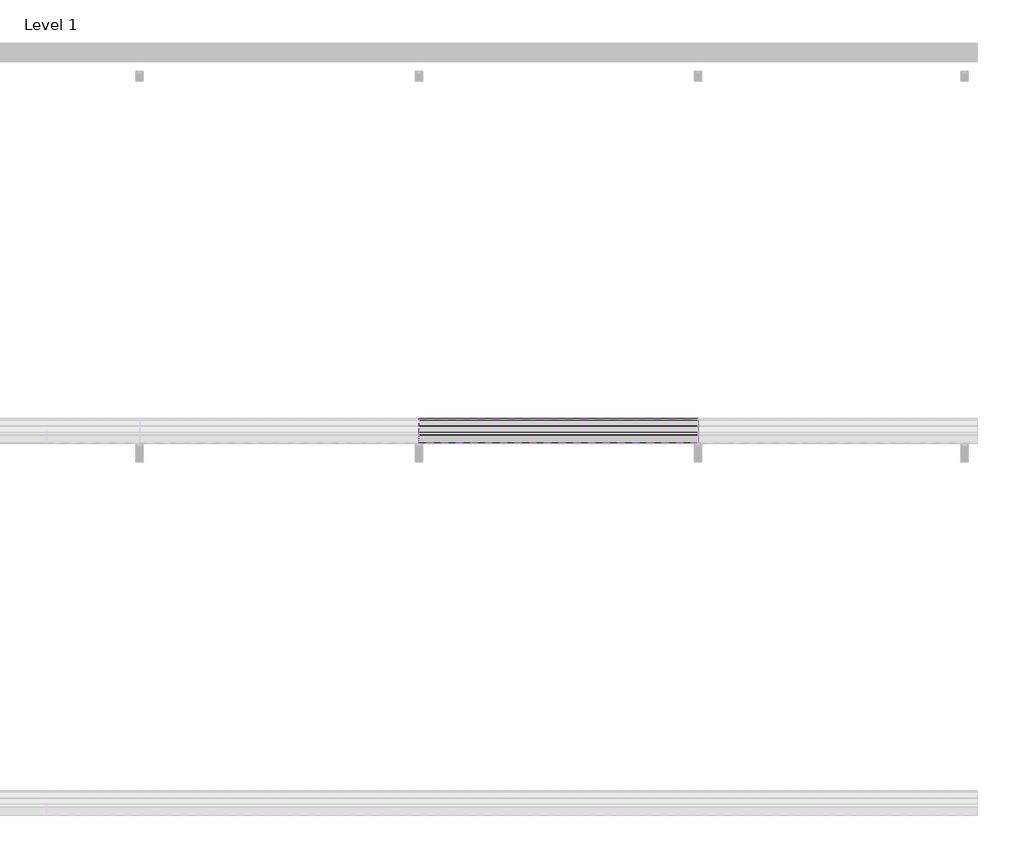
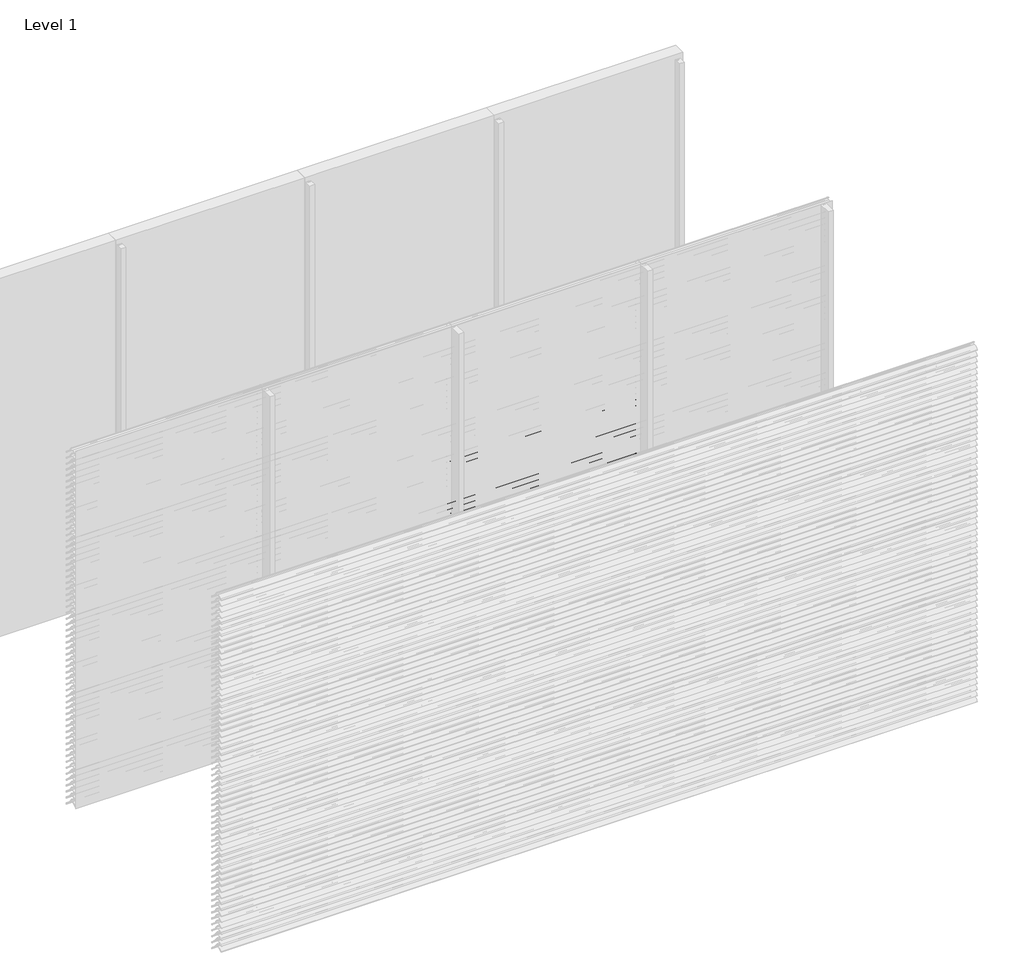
# One storey, part 66 of 173: 17 proxies.
"""IFC4 building model written with IfcOpenShell, lengths in millimetres."""

from ifc_helpers import new_model, si_unit, point, frame, frame_2d, origin, place, context, project, spatial, polyline, circle_curve, trimmed, segment, composite_curve, outline, extrude, element, save

model = new_model("IFC4")

# Units and contexts
model_context = context("Model", 3, world=origin())
ifc_project = project(units=[si_unit("LENGTHUNIT", "METRE", prefix="MILLI")], contexts=[model_context])

# Site, building, storey
site = spatial("IfcSite", under=ifc_project)
building = spatial("IfcBuilding", under=site)
storey = spatial("IfcBuildingStorey", under=building, Name="Level 1", Elevation=0.0)

# Proxies
placement = place(None, origin())
element("IfcBuildingElementProxy", 1, Name="Wall Sweeps", at=placement, inside=storey, context=model_context, shape_type="SweptSolid", body=[
    extrude(outline(composite_curve([segment(polyline([(-35998.0, 1809.1474905), (-35998.0, 1811.6227417)]), True, "CONTINUOUS"), segment(trimmed(circle_curve(frame_2d((-35951.2682172, 1766.2200208)), 65.1557103), [point((-35998.0, 1811.6227417))], [point((-35954.4014323, 1831.3003524))], False, "CARTESIAN"), True, "CONTINUOUS"), segment(polyline([(-35954.4014323, 1831.3003524), (-35934.8315836, 1831.3003524)]), True, "CONTINUOUS"), segment(trimmed(circle_curve(frame_2d((-35732.7329489, 1978.5533172)), 250.0545817), [point((-35934.8315836, 1831.3003524))], [point((-35941.4452143, 1840.8344583))], False, "CARTESIAN"), True, "CONTINUOUS"), segment(trimmed(circle_curve(frame_2d((-35953.2981792, 1835.1737835)), 13.1352966), [point((-35941.4452143, 1840.8344583))], [point((-35953.8171475, 1848.298824))], True, "CARTESIAN"), True, "CONTINUOUS"), segment(polyline([(-35953.8171475, 1848.298824), (-35953.8171475, 1850.0)]), True, "CONTINUOUS"), segment(trimmed(circle_curve(frame_2d((-35953.2981792, 1835.1737835)), 14.8352966), [point((-35953.8171475, 1850.0))], [point((-35939.9637661, 1841.6760487))], False, "CARTESIAN"), True, "CONTINUOUS"), segment(trimmed(circle_curve(frame_2d((-35732.7329489, 1978.5533172)), 248.3545817), [point((-35939.9637661, 1841.6760487))], [point((-35873.8787895, 1774.2059416))], True, "CARTESIAN"), True, "CONTINUOUS"), segment(trimmed(circle_curve(frame_2d((-35883.8147537, 1761.6649442)), 16.0), [point((-35873.8787895, 1774.2059416))], [point((-35867.8648347, 1760.4))], False, "CARTESIAN"), True, "CONTINUOUS"), segment(polyline([(-35867.8648347, 1760.4), (-35869.6712069, 1760.4)]), True, "CONTINUOUS"), segment(trimmed(circle_curve(frame_2d((-35883.8147537, 1761.6649442)), 14.2), [point((-35869.6712069, 1760.4))], [point((-35874.9518628, 1772.7594998))], True, "CARTESIAN"), True, "CONTINUOUS"), segment(trimmed(circle_curve(frame_2d((-35732.7329489, 1978.5533172)), 250.1545817), [point((-35874.9518628, 1772.7594998))], [point((-35933.7064024, 1829.6003524))], False, "CARTESIAN"), True, "CONTINUOUS"), segment(polyline([(-35933.7064024, 1829.6003524), (-35954.3602632, 1829.6003524)]), True, "CONTINUOUS"), segment(trimmed(circle_curve(frame_2d((-35951.2682172, 1766.2200208)), 63.4557103), [point((-35954.3602632, 1829.6003524))], [point((-35998.0, 1809.1474905))], True, "CARTESIAN"), True, "CONTINUOUS")], self_intersect=False)), frame((3000.0, 0.0, 0.0), z_axis=(1.0, 0.0, 0.0), x_axis=(0.0, 1.0, 0.0)), (0.0, 0.0, 1.0), 1500.0),
])
element("IfcBuildingElementProxy", 2, Name="Wall Sweeps", at=placement, inside=storey, context=model_context, shape_type="SweptSolid", body=[
    extrude(outline(composite_curve([segment(polyline([(-35998.0, 1759.1474905), (-35998.0, 1761.6227417)]), True, "CONTINUOUS"), segment(trimmed(circle_curve(frame_2d((-35951.2682172, 1716.2200208)), 65.1557103), [point((-35998.0, 1761.6227417))], [point((-35954.4014323, 1781.3003524))], False, "CARTESIAN"), True, "CONTINUOUS"), segment(polyline([(-35954.4014323, 1781.3003524), (-35934.8315836, 1781.3003524)]), True, "CONTINUOUS"), segment(trimmed(circle_curve(frame_2d((-35732.7329489, 1928.5533172)), 250.0545817), [point((-35934.8315836, 1781.3003524))], [point((-35941.4452143, 1790.8344583))], False, "CARTESIAN"), True, "CONTINUOUS"), segment(trimmed(circle_curve(frame_2d((-35953.2981792, 1785.1737835)), 13.1352966), [point((-35941.4452143, 1790.8344583))], [point((-35953.8171475, 1798.298824))], True, "CARTESIAN"), True, "CONTINUOUS"), segment(polyline([(-35953.8171475, 1798.298824), (-35953.8171475, 1800.0)]), True, "CONTINUOUS"), segment(trimmed(circle_curve(frame_2d((-35953.2981792, 1785.1737835)), 14.8352966), [point((-35953.8171475, 1800.0))], [point((-35939.9637661, 1791.6760487))], False, "CARTESIAN"), True, "CONTINUOUS"), segment(trimmed(circle_curve(frame_2d((-35732.7329489, 1928.5533172)), 248.3545817), [point((-35939.9637661, 1791.6760487))], [point((-35873.8787895, 1724.2059416))], True, "CARTESIAN"), True, "CONTINUOUS"), segment(trimmed(circle_curve(frame_2d((-35883.8147537, 1711.6649442)), 16.0), [point((-35873.8787895, 1724.2059416))], [point((-35867.8648347, 1710.4))], False, "CARTESIAN"), True, "CONTINUOUS"), segment(polyline([(-35867.8648347, 1710.4), (-35869.6712069, 1710.4)]), True, "CONTINUOUS"), segment(trimmed(circle_curve(frame_2d((-35883.8147537, 1711.6649442)), 14.2), [point((-35869.6712069, 1710.4))], [point((-35874.9518628, 1722.7594998))], True, "CARTESIAN"), True, "CONTINUOUS"), segment(trimmed(circle_curve(frame_2d((-35732.7329489, 1928.5533172)), 250.1545817), [point((-35874.9518628, 1722.7594998))], [point((-35933.7064024, 1779.6003524))], False, "CARTESIAN"), True, "CONTINUOUS"), segment(polyline([(-35933.7064024, 1779.6003524), (-35954.3602632, 1779.6003524)]), True, "CONTINUOUS"), segment(trimmed(circle_curve(frame_2d((-35951.2682172, 1716.2200208)), 63.4557103), [point((-35954.3602632, 1779.6003524))], [point((-35998.0, 1759.1474905))], True, "CARTESIAN"), True, "CONTINUOUS")], self_intersect=False)), frame((3000.0, 0.0, 0.0), z_axis=(1.0, 0.0, 0.0), x_axis=(0.0, 1.0, 0.0)), (0.0, 0.0, 1.0), 1500.0),
])
element("IfcBuildingElementProxy", 3, Name="Wall Sweeps", at=placement, inside=storey, context=model_context, shape_type="SweptSolid", body=[
    extrude(outline(composite_curve([segment(polyline([(-35998.0, 1709.1474905), (-35998.0, 1711.6227417)]), True, "CONTINUOUS"), segment(trimmed(circle_curve(frame_2d((-35951.2682172, 1666.2200208)), 65.1557103), [point((-35998.0, 1711.6227417))], [point((-35954.4014323, 1731.3003524))], False, "CARTESIAN"), True, "CONTINUOUS"), segment(polyline([(-35954.4014323, 1731.3003524), (-35934.8315836, 1731.3003524)]), True, "CONTINUOUS"), segment(trimmed(circle_curve(frame_2d((-35732.7329489, 1878.5533172)), 250.0545817), [point((-35934.8315836, 1731.3003524))], [point((-35941.4452143, 1740.8344583))], False, "CARTESIAN"), True, "CONTINUOUS"), segment(trimmed(circle_curve(frame_2d((-35953.2981792, 1735.1737835)), 13.1352966), [point((-35941.4452143, 1740.8344583))], [point((-35953.8171475, 1748.298824))], True, "CARTESIAN"), True, "CONTINUOUS"), segment(polyline([(-35953.8171475, 1748.298824), (-35953.8171475, 1750.0)]), True, "CONTINUOUS"), segment(trimmed(circle_curve(frame_2d((-35953.2981792, 1735.1737835)), 14.8352966), [point((-35953.8171475, 1750.0))], [point((-35939.9637661, 1741.6760487))], False, "CARTESIAN"), True, "CONTINUOUS"), segment(trimmed(circle_curve(frame_2d((-35732.7329489, 1878.5533172)), 248.3545817), [point((-35939.9637661, 1741.6760487))], [point((-35873.8787895, 1674.2059416))], True, "CARTESIAN"), True, "CONTINUOUS"), segment(trimmed(circle_curve(frame_2d((-35883.8147537, 1661.6649442)), 16.0), [point((-35873.8787895, 1674.2059416))], [point((-35867.8648347, 1660.4))], False, "CARTESIAN"), True, "CONTINUOUS"), segment(polyline([(-35867.8648347, 1660.4), (-35869.6712069, 1660.4)]), True, "CONTINUOUS"), segment(trimmed(circle_curve(frame_2d((-35883.8147537, 1661.6649442)), 14.2), [point((-35869.6712069, 1660.4))], [point((-35874.9518628, 1672.7594998))], True, "CARTESIAN"), True, "CONTINUOUS"), segment(trimmed(circle_curve(frame_2d((-35732.7329489, 1878.5533172)), 250.1545817), [point((-35874.9518628, 1672.7594998))], [point((-35933.7064024, 1729.6003524))], False, "CARTESIAN"), True, "CONTINUOUS"), segment(polyline([(-35933.7064024, 1729.6003524), (-35954.3602632, 1729.6003524)]), True, "CONTINUOUS"), segment(trimmed(circle_curve(frame_2d((-35951.2682172, 1666.2200208)), 63.4557103), [point((-35954.3602632, 1729.6003524))], [point((-35998.0, 1709.1474905))], True, "CARTESIAN"), True, "CONTINUOUS")], self_intersect=False)), frame((3000.0, 0.0, 0.0), z_axis=(1.0, 0.0, 0.0), x_axis=(0.0, 1.0, 0.0)), (0.0, 0.0, 1.0), 1500.0),
])
element("IfcBuildingElementProxy", 4, Name="Wall Sweeps", at=placement, inside=storey, context=model_context, shape_type="SweptSolid", body=[
    extrude(outline(composite_curve([segment(polyline([(-35998.0, 1659.1474905), (-35998.0, 1661.6227417)]), True, "CONTINUOUS"), segment(trimmed(circle_curve(frame_2d((-35951.2682172, 1616.2200208)), 65.1557103), [point((-35998.0, 1661.6227417))], [point((-35954.4014323, 1681.3003524))], False, "CARTESIAN"), True, "CONTINUOUS"), segment(polyline([(-35954.4014323, 1681.3003524), (-35934.8315836, 1681.3003524)]), True, "CONTINUOUS"), segment(trimmed(circle_curve(frame_2d((-35732.7329489, 1828.5533172)), 250.0545817), [point((-35934.8315836, 1681.3003524))], [point((-35941.4452143, 1690.8344583))], False, "CARTESIAN"), True, "CONTINUOUS"), segment(trimmed(circle_curve(frame_2d((-35953.2981792, 1685.1737835)), 13.1352966), [point((-35941.4452143, 1690.8344583))], [point((-35953.8171475, 1698.298824))], True, "CARTESIAN"), True, "CONTINUOUS"), segment(polyline([(-35953.8171475, 1698.298824), (-35953.8171475, 1700.0)]), True, "CONTINUOUS"), segment(trimmed(circle_curve(frame_2d((-35953.2981792, 1685.1737835)), 14.8352966), [point((-35953.8171475, 1700.0))], [point((-35939.9637661, 1691.6760487))], False, "CARTESIAN"), True, "CONTINUOUS"), segment(trimmed(circle_curve(frame_2d((-35732.7329489, 1828.5533172)), 248.3545817), [point((-35939.9637661, 1691.6760487))], [point((-35873.8787895, 1624.2059416))], True, "CARTESIAN"), True, "CONTINUOUS"), segment(trimmed(circle_curve(frame_2d((-35883.8147537, 1611.6649442)), 16.0), [point((-35873.8787895, 1624.2059416))], [point((-35867.8648347, 1610.4))], False, "CARTESIAN"), True, "CONTINUOUS"), segment(polyline([(-35867.8648347, 1610.4), (-35869.6712069, 1610.4)]), True, "CONTINUOUS"), segment(trimmed(circle_curve(frame_2d((-35883.8147537, 1611.6649442)), 14.2), [point((-35869.6712069, 1610.4))], [point((-35874.9518628, 1622.7594998))], True, "CARTESIAN"), True, "CONTINUOUS"), segment(trimmed(circle_curve(frame_2d((-35732.7329489, 1828.5533172)), 250.1545817), [point((-35874.9518628, 1622.7594998))], [point((-35933.7064024, 1679.6003524))], False, "CARTESIAN"), True, "CONTINUOUS"), segment(polyline([(-35933.7064024, 1679.6003524), (-35954.3602632, 1679.6003524)]), True, "CONTINUOUS"), segment(trimmed(circle_curve(frame_2d((-35951.2682172, 1616.2200208)), 63.4557103), [point((-35954.3602632, 1679.6003524))], [point((-35998.0, 1659.1474905))], True, "CARTESIAN"), True, "CONTINUOUS")], self_intersect=False)), frame((3000.0, 0.0, 0.0), z_axis=(1.0, 0.0, 0.0), x_axis=(0.0, 1.0, 0.0)), (0.0, 0.0, 1.0), 1500.0),
])
element("IfcBuildingElementProxy", 5, Name="Wall Sweeps", at=placement, inside=storey, context=model_context, shape_type="SweptSolid", body=[
    extrude(outline(composite_curve([segment(polyline([(-35998.0, 1609.1474905), (-35998.0, 1611.6227417)]), True, "CONTINUOUS"), segment(trimmed(circle_curve(frame_2d((-35951.2682172, 1566.2200208)), 65.1557103), [point((-35998.0, 1611.6227417))], [point((-35954.4014323, 1631.3003524))], False, "CARTESIAN"), True, "CONTINUOUS"), segment(polyline([(-35954.4014323, 1631.3003524), (-35934.8315836, 1631.3003524)]), True, "CONTINUOUS"), segment(trimmed(circle_curve(frame_2d((-35732.7329489, 1778.5533172)), 250.0545817), [point((-35934.8315836, 1631.3003524))], [point((-35941.4452143, 1640.8344583))], False, "CARTESIAN"), True, "CONTINUOUS"), segment(trimmed(circle_curve(frame_2d((-35953.2981792, 1635.1737835)), 13.1352966), [point((-35941.4452143, 1640.8344583))], [point((-35953.8171475, 1648.298824))], True, "CARTESIAN"), True, "CONTINUOUS"), segment(polyline([(-35953.8171475, 1648.298824), (-35953.8171475, 1650.0)]), True, "CONTINUOUS"), segment(trimmed(circle_curve(frame_2d((-35953.2981792, 1635.1737835)), 14.8352966), [point((-35953.8171475, 1650.0))], [point((-35939.9637661, 1641.6760487))], False, "CARTESIAN"), True, "CONTINUOUS"), segment(trimmed(circle_curve(frame_2d((-35732.7329489, 1778.5533172)), 248.3545817), [point((-35939.9637661, 1641.6760487))], [point((-35873.8787895, 1574.2059416))], True, "CARTESIAN"), True, "CONTINUOUS"), segment(trimmed(circle_curve(frame_2d((-35883.8147537, 1561.6649442)), 16.0), [point((-35873.8787895, 1574.2059416))], [point((-35867.8648347, 1560.4))], False, "CARTESIAN"), True, "CONTINUOUS"), segment(polyline([(-35867.8648347, 1560.4), (-35869.6712069, 1560.4)]), True, "CONTINUOUS"), segment(trimmed(circle_curve(frame_2d((-35883.8147537, 1561.6649442)), 14.2), [point((-35869.6712069, 1560.4))], [point((-35874.9518628, 1572.7594998))], True, "CARTESIAN"), True, "CONTINUOUS"), segment(trimmed(circle_curve(frame_2d((-35732.7329489, 1778.5533172)), 250.1545817), [point((-35874.9518628, 1572.7594998))], [point((-35933.7064024, 1629.6003524))], False, "CARTESIAN"), True, "CONTINUOUS"), segment(polyline([(-35933.7064024, 1629.6003524), (-35954.3602632, 1629.6003524)]), True, "CONTINUOUS"), segment(trimmed(circle_curve(frame_2d((-35951.2682172, 1566.2200208)), 63.4557103), [point((-35954.3602632, 1629.6003524))], [point((-35998.0, 1609.1474905))], True, "CARTESIAN"), True, "CONTINUOUS")], self_intersect=False)), frame((3000.0, 0.0, 0.0), z_axis=(1.0, 0.0, 0.0), x_axis=(0.0, 1.0, 0.0)), (0.0, 0.0, 1.0), 1500.0),
])
element("IfcBuildingElementProxy", 6, Name="Wall Sweeps", at=placement, inside=storey, context=model_context, shape_type="SweptSolid", body=[
    extrude(outline(composite_curve([segment(polyline([(-35998.0, 1559.1474905), (-35998.0, 1561.6227417)]), True, "CONTINUOUS"), segment(trimmed(circle_curve(frame_2d((-35951.2682172, 1516.2200208)), 65.1557103), [point((-35998.0, 1561.6227417))], [point((-35954.4014323, 1581.3003524))], False, "CARTESIAN"), True, "CONTINUOUS"), segment(polyline([(-35954.4014323, 1581.3003524), (-35934.8315836, 1581.3003524)]), True, "CONTINUOUS"), segment(trimmed(circle_curve(frame_2d((-35732.7329489, 1728.5533172)), 250.0545817), [point((-35934.8315836, 1581.3003524))], [point((-35941.4452143, 1590.8344583))], False, "CARTESIAN"), True, "CONTINUOUS"), segment(trimmed(circle_curve(frame_2d((-35953.2981792, 1585.1737835)), 13.1352966), [point((-35941.4452143, 1590.8344583))], [point((-35953.8171475, 1598.298824))], True, "CARTESIAN"), True, "CONTINUOUS"), segment(polyline([(-35953.8171475, 1598.298824), (-35953.8171475, 1600.0)]), True, "CONTINUOUS"), segment(trimmed(circle_curve(frame_2d((-35953.2981792, 1585.1737835)), 14.8352966), [point((-35953.8171475, 1600.0))], [point((-35939.9637661, 1591.6760487))], False, "CARTESIAN"), True, "CONTINUOUS"), segment(trimmed(circle_curve(frame_2d((-35732.7329489, 1728.5533172)), 248.3545817), [point((-35939.9637661, 1591.6760487))], [point((-35873.8787895, 1524.2059416))], True, "CARTESIAN"), True, "CONTINUOUS"), segment(trimmed(circle_curve(frame_2d((-35883.8147537, 1511.6649442)), 16.0), [point((-35873.8787895, 1524.2059416))], [point((-35867.8648347, 1510.4))], False, "CARTESIAN"), True, "CONTINUOUS"), segment(polyline([(-35867.8648347, 1510.4), (-35869.6712069, 1510.4)]), True, "CONTINUOUS"), segment(trimmed(circle_curve(frame_2d((-35883.8147537, 1511.6649442)), 14.2), [point((-35869.6712069, 1510.4))], [point((-35874.9518628, 1522.7594998))], True, "CARTESIAN"), True, "CONTINUOUS"), segment(trimmed(circle_curve(frame_2d((-35732.7329489, 1728.5533172)), 250.1545817), [point((-35874.9518628, 1522.7594998))], [point((-35933.7064024, 1579.6003524))], False, "CARTESIAN"), True, "CONTINUOUS"), segment(polyline([(-35933.7064024, 1579.6003524), (-35954.3602632, 1579.6003524)]), True, "CONTINUOUS"), segment(trimmed(circle_curve(frame_2d((-35951.2682172, 1516.2200208)), 63.4557103), [point((-35954.3602632, 1579.6003524))], [point((-35998.0, 1559.1474905))], True, "CARTESIAN"), True, "CONTINUOUS")], self_intersect=False)), frame((3000.0, 0.0, 0.0), z_axis=(1.0, 0.0, 0.0), x_axis=(0.0, 1.0, 0.0)), (0.0, 0.0, 1.0), 1500.0),
])
element("IfcBuildingElementProxy", 7, Name="Wall Sweeps", at=placement, inside=storey, context=model_context, shape_type="SweptSolid", body=[
    extrude(outline(composite_curve([segment(polyline([(-35998.0, 1509.1474905), (-35998.0, 1511.6227417)]), True, "CONTINUOUS"), segment(trimmed(circle_curve(frame_2d((-35951.2682172, 1466.2200208)), 65.1557103), [point((-35998.0, 1511.6227417))], [point((-35954.4014323, 1531.3003524))], False, "CARTESIAN"), True, "CONTINUOUS"), segment(polyline([(-35954.4014323, 1531.3003524), (-35934.8315836, 1531.3003524)]), True, "CONTINUOUS"), segment(trimmed(circle_curve(frame_2d((-35732.7329489, 1678.5533172)), 250.0545817), [point((-35934.8315836, 1531.3003524))], [point((-35941.4452143, 1540.8344583))], False, "CARTESIAN"), True, "CONTINUOUS"), segment(trimmed(circle_curve(frame_2d((-35953.2981792, 1535.1737835)), 13.1352966), [point((-35941.4452143, 1540.8344583))], [point((-35953.8171475, 1548.298824))], True, "CARTESIAN"), True, "CONTINUOUS"), segment(polyline([(-35953.8171475, 1548.298824), (-35953.8171475, 1550.0)]), True, "CONTINUOUS"), segment(trimmed(circle_curve(frame_2d((-35953.2981792, 1535.1737835)), 14.8352966), [point((-35953.8171475, 1550.0))], [point((-35939.9637661, 1541.6760487))], False, "CARTESIAN"), True, "CONTINUOUS"), segment(trimmed(circle_curve(frame_2d((-35732.7329489, 1678.5533172)), 248.3545817), [point((-35939.9637661, 1541.6760487))], [point((-35873.8787895, 1474.2059416))], True, "CARTESIAN"), True, "CONTINUOUS"), segment(trimmed(circle_curve(frame_2d((-35883.8147537, 1461.6649442)), 16.0), [point((-35873.8787895, 1474.2059416))], [point((-35867.8648347, 1460.4))], False, "CARTESIAN"), True, "CONTINUOUS"), segment(polyline([(-35867.8648347, 1460.4), (-35869.6712069, 1460.4)]), True, "CONTINUOUS"), segment(trimmed(circle_curve(frame_2d((-35883.8147537, 1461.6649442)), 14.2), [point((-35869.6712069, 1460.4))], [point((-35874.9518628, 1472.7594998))], True, "CARTESIAN"), True, "CONTINUOUS"), segment(trimmed(circle_curve(frame_2d((-35732.7329489, 1678.5533172)), 250.1545817), [point((-35874.9518628, 1472.7594998))], [point((-35933.7064024, 1529.6003524))], False, "CARTESIAN"), True, "CONTINUOUS"), segment(polyline([(-35933.7064024, 1529.6003524), (-35954.3602632, 1529.6003524)]), True, "CONTINUOUS"), segment(trimmed(circle_curve(frame_2d((-35951.2682172, 1466.2200208)), 63.4557103), [point((-35954.3602632, 1529.6003524))], [point((-35998.0, 1509.1474905))], True, "CARTESIAN"), True, "CONTINUOUS")], self_intersect=False)), frame((3000.0, 0.0, 0.0), z_axis=(1.0, 0.0, 0.0), x_axis=(0.0, 1.0, 0.0)), (0.0, 0.0, 1.0), 1500.0),
])
element("IfcBuildingElementProxy", 8, Name="Wall Sweeps", at=placement, inside=storey, context=model_context, shape_type="SweptSolid", body=[
    extrude(outline(composite_curve([segment(polyline([(-35998.0, 1459.1474905), (-35998.0, 1461.6227417)]), True, "CONTINUOUS"), segment(trimmed(circle_curve(frame_2d((-35951.2682172, 1416.2200208)), 65.1557103), [point((-35998.0, 1461.6227417))], [point((-35954.4014323, 1481.3003524))], False, "CARTESIAN"), True, "CONTINUOUS"), segment(polyline([(-35954.4014323, 1481.3003524), (-35934.8315836, 1481.3003524)]), True, "CONTINUOUS"), segment(trimmed(circle_curve(frame_2d((-35732.7329489, 1628.5533172)), 250.0545817), [point((-35934.8315836, 1481.3003524))], [point((-35941.4452143, 1490.8344583))], False, "CARTESIAN"), True, "CONTINUOUS"), segment(trimmed(circle_curve(frame_2d((-35953.2981792, 1485.1737835)), 13.1352966), [point((-35941.4452143, 1490.8344583))], [point((-35953.8171475, 1498.298824))], True, "CARTESIAN"), True, "CONTINUOUS"), segment(polyline([(-35953.8171475, 1498.298824), (-35953.8171475, 1500.0)]), True, "CONTINUOUS"), segment(trimmed(circle_curve(frame_2d((-35953.2981792, 1485.1737835)), 14.8352966), [point((-35953.8171475, 1500.0))], [point((-35939.9637661, 1491.6760487))], False, "CARTESIAN"), True, "CONTINUOUS"), segment(trimmed(circle_curve(frame_2d((-35732.7329489, 1628.5533172)), 248.3545817), [point((-35939.9637661, 1491.6760487))], [point((-35873.8787895, 1424.2059416))], True, "CARTESIAN"), True, "CONTINUOUS"), segment(trimmed(circle_curve(frame_2d((-35883.8147537, 1411.6649442)), 16.0), [point((-35873.8787895, 1424.2059416))], [point((-35867.8648347, 1410.4))], False, "CARTESIAN"), True, "CONTINUOUS"), segment(polyline([(-35867.8648347, 1410.4), (-35869.6712069, 1410.4)]), True, "CONTINUOUS"), segment(trimmed(circle_curve(frame_2d((-35883.8147537, 1411.6649442)), 14.2), [point((-35869.6712069, 1410.4))], [point((-35874.9518628, 1422.7594998))], True, "CARTESIAN"), True, "CONTINUOUS"), segment(trimmed(circle_curve(frame_2d((-35732.7329489, 1628.5533172)), 250.1545817), [point((-35874.9518628, 1422.7594998))], [point((-35933.7064024, 1479.6003524))], False, "CARTESIAN"), True, "CONTINUOUS"), segment(polyline([(-35933.7064024, 1479.6003524), (-35954.3602632, 1479.6003524)]), True, "CONTINUOUS"), segment(trimmed(circle_curve(frame_2d((-35951.2682172, 1416.2200208)), 63.4557103), [point((-35954.3602632, 1479.6003524))], [point((-35998.0, 1459.1474905))], True, "CARTESIAN"), True, "CONTINUOUS")], self_intersect=False)), frame((3000.0, 0.0, 0.0), z_axis=(1.0, 0.0, 0.0), x_axis=(0.0, 1.0, 0.0)), (0.0, 0.0, 1.0), 1500.0),
])
element("IfcBuildingElementProxy", 9, Name="Wall Sweeps", at=placement, inside=storey, context=model_context, shape_type="SweptSolid", body=[
    extrude(outline(composite_curve([segment(polyline([(-35998.0, 1409.1474905), (-35998.0, 1411.6227417)]), True, "CONTINUOUS"), segment(trimmed(circle_curve(frame_2d((-35951.2682172, 1366.2200208)), 65.1557103), [point((-35998.0, 1411.6227417))], [point((-35954.4014323, 1431.3003524))], False, "CARTESIAN"), True, "CONTINUOUS"), segment(polyline([(-35954.4014323, 1431.3003524), (-35934.8315836, 1431.3003524)]), True, "CONTINUOUS"), segment(trimmed(circle_curve(frame_2d((-35732.7329489, 1578.5533172)), 250.0545817), [point((-35934.8315836, 1431.3003524))], [point((-35941.4452143, 1440.8344583))], False, "CARTESIAN"), True, "CONTINUOUS"), segment(trimmed(circle_curve(frame_2d((-35953.2981792, 1435.1737835)), 13.1352966), [point((-35941.4452143, 1440.8344583))], [point((-35953.8171475, 1448.298824))], True, "CARTESIAN"), True, "CONTINUOUS"), segment(polyline([(-35953.8171475, 1448.298824), (-35953.8171475, 1450.0)]), True, "CONTINUOUS"), segment(trimmed(circle_curve(frame_2d((-35953.2981792, 1435.1737835)), 14.8352966), [point((-35953.8171475, 1450.0))], [point((-35939.9637661, 1441.6760487))], False, "CARTESIAN"), True, "CONTINUOUS"), segment(trimmed(circle_curve(frame_2d((-35732.7329489, 1578.5533172)), 248.3545817), [point((-35939.9637661, 1441.6760487))], [point((-35873.8787895, 1374.2059416))], True, "CARTESIAN"), True, "CONTINUOUS"), segment(trimmed(circle_curve(frame_2d((-35883.8147537, 1361.6649442)), 16.0), [point((-35873.8787895, 1374.2059416))], [point((-35867.8648347, 1360.4))], False, "CARTESIAN"), True, "CONTINUOUS"), segment(polyline([(-35867.8648347, 1360.4), (-35869.6712069, 1360.4)]), True, "CONTINUOUS"), segment(trimmed(circle_curve(frame_2d((-35883.8147537, 1361.6649442)), 14.2), [point((-35869.6712069, 1360.4))], [point((-35874.9518628, 1372.7594998))], True, "CARTESIAN"), True, "CONTINUOUS"), segment(trimmed(circle_curve(frame_2d((-35732.7329489, 1578.5533172)), 250.1545817), [point((-35874.9518628, 1372.7594998))], [point((-35933.7064024, 1429.6003524))], False, "CARTESIAN"), True, "CONTINUOUS"), segment(polyline([(-35933.7064024, 1429.6003524), (-35954.3602632, 1429.6003524)]), True, "CONTINUOUS"), segment(trimmed(circle_curve(frame_2d((-35951.2682172, 1366.2200208)), 63.4557103), [point((-35954.3602632, 1429.6003524))], [point((-35998.0, 1409.1474905))], True, "CARTESIAN"), True, "CONTINUOUS")], self_intersect=False)), frame((3000.0, 0.0, 0.0), z_axis=(1.0, 0.0, 0.0), x_axis=(0.0, 1.0, 0.0)), (0.0, 0.0, 1.0), 1500.0),
])
element("IfcBuildingElementProxy", 10, Name="Wall Sweeps", at=placement, inside=storey, context=model_context, shape_type="SweptSolid", body=[
    extrude(outline(composite_curve([segment(polyline([(-35998.0, 1359.1474905), (-35998.0, 1361.6227417)]), True, "CONTINUOUS"), segment(trimmed(circle_curve(frame_2d((-35951.2682172, 1316.2200208)), 65.1557103), [point((-35998.0, 1361.6227417))], [point((-35954.4014323, 1381.3003524))], False, "CARTESIAN"), True, "CONTINUOUS"), segment(polyline([(-35954.4014323, 1381.3003524), (-35934.8315836, 1381.3003524)]), True, "CONTINUOUS"), segment(trimmed(circle_curve(frame_2d((-35732.7329489, 1528.5533172)), 250.0545817), [point((-35934.8315836, 1381.3003524))], [point((-35941.4452143, 1390.8344583))], False, "CARTESIAN"), True, "CONTINUOUS"), segment(trimmed(circle_curve(frame_2d((-35953.2981792, 1385.1737835)), 13.1352966), [point((-35941.4452143, 1390.8344583))], [point((-35953.8171475, 1398.298824))], True, "CARTESIAN"), True, "CONTINUOUS"), segment(polyline([(-35953.8171475, 1398.298824), (-35953.8171475, 1400.0)]), True, "CONTINUOUS"), segment(trimmed(circle_curve(frame_2d((-35953.2981792, 1385.1737835)), 14.8352966), [point((-35953.8171475, 1400.0))], [point((-35939.9637661, 1391.6760487))], False, "CARTESIAN"), True, "CONTINUOUS"), segment(trimmed(circle_curve(frame_2d((-35732.7329489, 1528.5533172)), 248.3545817), [point((-35939.9637661, 1391.6760487))], [point((-35873.8787895, 1324.2059416))], True, "CARTESIAN"), True, "CONTINUOUS"), segment(trimmed(circle_curve(frame_2d((-35883.8147537, 1311.6649442)), 16.0), [point((-35873.8787895, 1324.2059416))], [point((-35867.8648347, 1310.4))], False, "CARTESIAN"), True, "CONTINUOUS"), segment(polyline([(-35867.8648347, 1310.4), (-35869.6712069, 1310.4)]), True, "CONTINUOUS"), segment(trimmed(circle_curve(frame_2d((-35883.8147537, 1311.6649442)), 14.2), [point((-35869.6712069, 1310.4))], [point((-35874.9518628, 1322.7594998))], True, "CARTESIAN"), True, "CONTINUOUS"), segment(trimmed(circle_curve(frame_2d((-35732.7329489, 1528.5533172)), 250.1545817), [point((-35874.9518628, 1322.7594998))], [point((-35933.7064024, 1379.6003524))], False, "CARTESIAN"), True, "CONTINUOUS"), segment(polyline([(-35933.7064024, 1379.6003524), (-35954.3602632, 1379.6003524)]), True, "CONTINUOUS"), segment(trimmed(circle_curve(frame_2d((-35951.2682172, 1316.2200208)), 63.4557103), [point((-35954.3602632, 1379.6003524))], [point((-35998.0, 1359.1474905))], True, "CARTESIAN"), True, "CONTINUOUS")], self_intersect=False)), frame((3000.0, 0.0, 0.0), z_axis=(1.0, 0.0, 0.0), x_axis=(0.0, 1.0, 0.0)), (0.0, 0.0, 1.0), 1500.0),
])
element("IfcBuildingElementProxy", 11, Name="Wall Sweeps", at=placement, inside=storey, context=model_context, shape_type="SweptSolid", body=[
    extrude(outline(composite_curve([segment(polyline([(-35998.0, 1309.1474905), (-35998.0, 1311.6227417)]), True, "CONTINUOUS"), segment(trimmed(circle_curve(frame_2d((-35951.2682172, 1266.2200208)), 65.1557103), [point((-35998.0, 1311.6227417))], [point((-35954.4014323, 1331.3003524))], False, "CARTESIAN"), True, "CONTINUOUS"), segment(polyline([(-35954.4014323, 1331.3003524), (-35934.8315836, 1331.3003524)]), True, "CONTINUOUS"), segment(trimmed(circle_curve(frame_2d((-35732.7329489, 1478.5533172)), 250.0545817), [point((-35934.8315836, 1331.3003524))], [point((-35941.4452143, 1340.8344583))], False, "CARTESIAN"), True, "CONTINUOUS"), segment(trimmed(circle_curve(frame_2d((-35953.2981792, 1335.1737835)), 13.1352966), [point((-35941.4452143, 1340.8344583))], [point((-35953.8171475, 1348.298824))], True, "CARTESIAN"), True, "CONTINUOUS"), segment(polyline([(-35953.8171475, 1348.298824), (-35953.8171475, 1350.0)]), True, "CONTINUOUS"), segment(trimmed(circle_curve(frame_2d((-35953.2981792, 1335.1737835)), 14.8352966), [point((-35953.8171475, 1350.0))], [point((-35939.9637661, 1341.6760487))], False, "CARTESIAN"), True, "CONTINUOUS"), segment(trimmed(circle_curve(frame_2d((-35732.7329489, 1478.5533172)), 248.3545817), [point((-35939.9637661, 1341.6760487))], [point((-35873.8787895, 1274.2059416))], True, "CARTESIAN"), True, "CONTINUOUS"), segment(trimmed(circle_curve(frame_2d((-35883.8147537, 1261.6649442)), 16.0), [point((-35873.8787895, 1274.2059416))], [point((-35867.8648347, 1260.4))], False, "CARTESIAN"), True, "CONTINUOUS"), segment(polyline([(-35867.8648347, 1260.4), (-35869.6712069, 1260.4)]), True, "CONTINUOUS"), segment(trimmed(circle_curve(frame_2d((-35883.8147537, 1261.6649442)), 14.2), [point((-35869.6712069, 1260.4))], [point((-35874.9518628, 1272.7594998))], True, "CARTESIAN"), True, "CONTINUOUS"), segment(trimmed(circle_curve(frame_2d((-35732.7329489, 1478.5533172)), 250.1545817), [point((-35874.9518628, 1272.7594998))], [point((-35933.7064024, 1329.6003524))], False, "CARTESIAN"), True, "CONTINUOUS"), segment(polyline([(-35933.7064024, 1329.6003524), (-35954.3602632, 1329.6003524)]), True, "CONTINUOUS"), segment(trimmed(circle_curve(frame_2d((-35951.2682172, 1266.2200208)), 63.4557103), [point((-35954.3602632, 1329.6003524))], [point((-35998.0, 1309.1474905))], True, "CARTESIAN"), True, "CONTINUOUS")], self_intersect=False)), frame((3000.0, 0.0, 0.0), z_axis=(1.0, 0.0, 0.0), x_axis=(0.0, 1.0, 0.0)), (0.0, 0.0, 1.0), 1500.0),
])
element("IfcBuildingElementProxy", 12, Name="Wall Sweeps", at=placement, inside=storey, context=model_context, shape_type="SweptSolid", body=[
    extrude(outline(composite_curve([segment(polyline([(-35998.0, 1259.1474905), (-35998.0, 1261.6227417)]), True, "CONTINUOUS"), segment(trimmed(circle_curve(frame_2d((-35951.2682172, 1216.2200208)), 65.1557103), [point((-35998.0, 1261.6227417))], [point((-35954.4014323, 1281.3003524))], False, "CARTESIAN"), True, "CONTINUOUS"), segment(polyline([(-35954.4014323, 1281.3003524), (-35934.8315836, 1281.3003524)]), True, "CONTINUOUS"), segment(trimmed(circle_curve(frame_2d((-35732.7329489, 1428.5533172)), 250.0545817), [point((-35934.8315836, 1281.3003524))], [point((-35941.4452143, 1290.8344583))], False, "CARTESIAN"), True, "CONTINUOUS"), segment(trimmed(circle_curve(frame_2d((-35953.2981792, 1285.1737835)), 13.1352966), [point((-35941.4452143, 1290.8344583))], [point((-35953.8171475, 1298.298824))], True, "CARTESIAN"), True, "CONTINUOUS"), segment(polyline([(-35953.8171475, 1298.298824), (-35953.8171475, 1300.0)]), True, "CONTINUOUS"), segment(trimmed(circle_curve(frame_2d((-35953.2981792, 1285.1737835)), 14.8352966), [point((-35953.8171475, 1300.0))], [point((-35939.9637661, 1291.6760487))], False, "CARTESIAN"), True, "CONTINUOUS"), segment(trimmed(circle_curve(frame_2d((-35732.7329489, 1428.5533172)), 248.3545817), [point((-35939.9637661, 1291.6760487))], [point((-35873.8787895, 1224.2059416))], True, "CARTESIAN"), True, "CONTINUOUS"), segment(trimmed(circle_curve(frame_2d((-35883.8147537, 1211.6649442)), 16.0), [point((-35873.8787895, 1224.2059416))], [point((-35867.8648347, 1210.4))], False, "CARTESIAN"), True, "CONTINUOUS"), segment(polyline([(-35867.8648347, 1210.4), (-35869.6712069, 1210.4)]), True, "CONTINUOUS"), segment(trimmed(circle_curve(frame_2d((-35883.8147537, 1211.6649442)), 14.2), [point((-35869.6712069, 1210.4))], [point((-35874.9518628, 1222.7594998))], True, "CARTESIAN"), True, "CONTINUOUS"), segment(trimmed(circle_curve(frame_2d((-35732.7329489, 1428.5533172)), 250.1545817), [point((-35874.9518628, 1222.7594998))], [point((-35933.7064024, 1279.6003524))], False, "CARTESIAN"), True, "CONTINUOUS"), segment(polyline([(-35933.7064024, 1279.6003524), (-35954.3602632, 1279.6003524)]), True, "CONTINUOUS"), segment(trimmed(circle_curve(frame_2d((-35951.2682172, 1216.2200208)), 63.4557103), [point((-35954.3602632, 1279.6003524))], [point((-35998.0, 1259.1474905))], True, "CARTESIAN"), True, "CONTINUOUS")], self_intersect=False)), frame((3000.0, 0.0, 0.0), z_axis=(1.0, 0.0, 0.0), x_axis=(0.0, 1.0, 0.0)), (0.0, 0.0, 1.0), 1500.0),
])
element("IfcBuildingElementProxy", 13, Name="Wall Sweeps", at=placement, inside=storey, context=model_context, shape_type="SweptSolid", body=[
    extrude(outline(composite_curve([segment(polyline([(-35998.0, 1209.1474905), (-35998.0, 1211.6227417)]), True, "CONTINUOUS"), segment(trimmed(circle_curve(frame_2d((-35951.2682172, 1166.2200208)), 65.1557103), [point((-35998.0, 1211.6227417))], [point((-35954.4014323, 1231.3003524))], False, "CARTESIAN"), True, "CONTINUOUS"), segment(polyline([(-35954.4014323, 1231.3003524), (-35934.8315836, 1231.3003524)]), True, "CONTINUOUS"), segment(trimmed(circle_curve(frame_2d((-35732.7329489, 1378.5533172)), 250.0545817), [point((-35934.8315836, 1231.3003524))], [point((-35941.4452143, 1240.8344583))], False, "CARTESIAN"), True, "CONTINUOUS"), segment(trimmed(circle_curve(frame_2d((-35953.2981792, 1235.1737835)), 13.1352966), [point((-35941.4452143, 1240.8344583))], [point((-35953.8171475, 1248.298824))], True, "CARTESIAN"), True, "CONTINUOUS"), segment(polyline([(-35953.8171475, 1248.298824), (-35953.8171475, 1250.0)]), True, "CONTINUOUS"), segment(trimmed(circle_curve(frame_2d((-35953.2981792, 1235.1737835)), 14.8352966), [point((-35953.8171475, 1250.0))], [point((-35939.9637661, 1241.6760487))], False, "CARTESIAN"), True, "CONTINUOUS"), segment(trimmed(circle_curve(frame_2d((-35732.7329489, 1378.5533172)), 248.3545817), [point((-35939.9637661, 1241.6760487))], [point((-35873.8787895, 1174.2059416))], True, "CARTESIAN"), True, "CONTINUOUS"), segment(trimmed(circle_curve(frame_2d((-35883.8147537, 1161.6649442)), 16.0), [point((-35873.8787895, 1174.2059416))], [point((-35867.8648347, 1160.4))], False, "CARTESIAN"), True, "CONTINUOUS"), segment(polyline([(-35867.8648347, 1160.4), (-35869.6712069, 1160.4)]), True, "CONTINUOUS"), segment(trimmed(circle_curve(frame_2d((-35883.8147537, 1161.6649442)), 14.2), [point((-35869.6712069, 1160.4))], [point((-35874.9518628, 1172.7594998))], True, "CARTESIAN"), True, "CONTINUOUS"), segment(trimmed(circle_curve(frame_2d((-35732.7329489, 1378.5533172)), 250.1545817), [point((-35874.9518628, 1172.7594998))], [point((-35933.7064024, 1229.6003524))], False, "CARTESIAN"), True, "CONTINUOUS"), segment(polyline([(-35933.7064024, 1229.6003524), (-35954.3602632, 1229.6003524)]), True, "CONTINUOUS"), segment(trimmed(circle_curve(frame_2d((-35951.2682172, 1166.2200208)), 63.4557103), [point((-35954.3602632, 1229.6003524))], [point((-35998.0, 1209.1474905))], True, "CARTESIAN"), True, "CONTINUOUS")], self_intersect=False)), frame((3000.0, 0.0, 0.0), z_axis=(1.0, 0.0, 0.0), x_axis=(0.0, 1.0, 0.0)), (0.0, 0.0, 1.0), 1500.0),
])
element("IfcBuildingElementProxy", 14, Name="Wall Sweeps", at=placement, inside=storey, context=model_context, shape_type="SweptSolid", body=[
    extrude(outline(composite_curve([segment(polyline([(-35998.0, 1159.1474905), (-35998.0, 1161.6227417)]), True, "CONTINUOUS"), segment(trimmed(circle_curve(frame_2d((-35951.2682172, 1116.2200208)), 65.1557103), [point((-35998.0, 1161.6227417))], [point((-35954.4014323, 1181.3003524))], False, "CARTESIAN"), True, "CONTINUOUS"), segment(polyline([(-35954.4014323, 1181.3003524), (-35934.8315836, 1181.3003524)]), True, "CONTINUOUS"), segment(trimmed(circle_curve(frame_2d((-35732.7329489, 1328.5533172)), 250.0545817), [point((-35934.8315836, 1181.3003524))], [point((-35941.4452143, 1190.8344583))], False, "CARTESIAN"), True, "CONTINUOUS"), segment(trimmed(circle_curve(frame_2d((-35953.2981792, 1185.1737835)), 13.1352966), [point((-35941.4452143, 1190.8344583))], [point((-35953.8171475, 1198.298824))], True, "CARTESIAN"), True, "CONTINUOUS"), segment(polyline([(-35953.8171475, 1198.298824), (-35953.8171475, 1200.0)]), True, "CONTINUOUS"), segment(trimmed(circle_curve(frame_2d((-35953.2981792, 1185.1737835)), 14.8352966), [point((-35953.8171475, 1200.0))], [point((-35939.9637661, 1191.6760487))], False, "CARTESIAN"), True, "CONTINUOUS"), segment(trimmed(circle_curve(frame_2d((-35732.7329489, 1328.5533172)), 248.3545817), [point((-35939.9637661, 1191.6760487))], [point((-35873.8787895, 1124.2059416))], True, "CARTESIAN"), True, "CONTINUOUS"), segment(trimmed(circle_curve(frame_2d((-35883.8147537, 1111.6649442)), 16.0), [point((-35873.8787895, 1124.2059416))], [point((-35867.8648347, 1110.4))], False, "CARTESIAN"), True, "CONTINUOUS"), segment(polyline([(-35867.8648347, 1110.4), (-35869.6712069, 1110.4)]), True, "CONTINUOUS"), segment(trimmed(circle_curve(frame_2d((-35883.8147537, 1111.6649442)), 14.2), [point((-35869.6712069, 1110.4))], [point((-35874.9518628, 1122.7594998))], True, "CARTESIAN"), True, "CONTINUOUS"), segment(trimmed(circle_curve(frame_2d((-35732.7329489, 1328.5533172)), 250.1545817), [point((-35874.9518628, 1122.7594998))], [point((-35933.7064024, 1179.6003524))], False, "CARTESIAN"), True, "CONTINUOUS"), segment(polyline([(-35933.7064024, 1179.6003524), (-35954.3602632, 1179.6003524)]), True, "CONTINUOUS"), segment(trimmed(circle_curve(frame_2d((-35951.2682172, 1116.2200208)), 63.4557103), [point((-35954.3602632, 1179.6003524))], [point((-35998.0, 1159.1474905))], True, "CARTESIAN"), True, "CONTINUOUS")], self_intersect=False)), frame((3000.0, 0.0, 0.0), z_axis=(1.0, 0.0, 0.0), x_axis=(0.0, 1.0, 0.0)), (0.0, 0.0, 1.0), 1500.0),
])
element("IfcBuildingElementProxy", 15, Name="Wall Sweeps", at=placement, inside=storey, context=model_context, shape_type="SweptSolid", body=[
    extrude(outline(composite_curve([segment(polyline([(-35998.0, 1109.1474905), (-35998.0, 1111.6227417)]), True, "CONTINUOUS"), segment(trimmed(circle_curve(frame_2d((-35951.2682172, 1066.2200208)), 65.1557103), [point((-35998.0, 1111.6227417))], [point((-35954.4014323, 1131.3003524))], False, "CARTESIAN"), True, "CONTINUOUS"), segment(polyline([(-35954.4014323, 1131.3003524), (-35934.8315836, 1131.3003524)]), True, "CONTINUOUS"), segment(trimmed(circle_curve(frame_2d((-35732.7329489, 1278.5533172)), 250.0545817), [point((-35934.8315836, 1131.3003524))], [point((-35941.4452143, 1140.8344583))], False, "CARTESIAN"), True, "CONTINUOUS"), segment(trimmed(circle_curve(frame_2d((-35953.2981792, 1135.1737835)), 13.1352966), [point((-35941.4452143, 1140.8344583))], [point((-35953.8171475, 1148.298824))], True, "CARTESIAN"), True, "CONTINUOUS"), segment(polyline([(-35953.8171475, 1148.298824), (-35953.8171475, 1150.0)]), True, "CONTINUOUS"), segment(trimmed(circle_curve(frame_2d((-35953.2981792, 1135.1737835)), 14.8352966), [point((-35953.8171475, 1150.0))], [point((-35939.9637661, 1141.6760487))], False, "CARTESIAN"), True, "CONTINUOUS"), segment(trimmed(circle_curve(frame_2d((-35732.7329489, 1278.5533172)), 248.3545817), [point((-35939.9637661, 1141.6760487))], [point((-35873.8787895, 1074.2059416))], True, "CARTESIAN"), True, "CONTINUOUS"), segment(trimmed(circle_curve(frame_2d((-35883.8147537, 1061.6649442)), 16.0), [point((-35873.8787895, 1074.2059416))], [point((-35867.8648347, 1060.4))], False, "CARTESIAN"), True, "CONTINUOUS"), segment(polyline([(-35867.8648347, 1060.4), (-35869.6712069, 1060.4)]), True, "CONTINUOUS"), segment(trimmed(circle_curve(frame_2d((-35883.8147537, 1061.6649442)), 14.2), [point((-35869.6712069, 1060.4))], [point((-35874.9518628, 1072.7594998))], True, "CARTESIAN"), True, "CONTINUOUS"), segment(trimmed(circle_curve(frame_2d((-35732.7329489, 1278.5533172)), 250.1545817), [point((-35874.9518628, 1072.7594998))], [point((-35933.7064024, 1129.6003524))], False, "CARTESIAN"), True, "CONTINUOUS"), segment(polyline([(-35933.7064024, 1129.6003524), (-35954.3602632, 1129.6003524)]), True, "CONTINUOUS"), segment(trimmed(circle_curve(frame_2d((-35951.2682172, 1066.2200208)), 63.4557103), [point((-35954.3602632, 1129.6003524))], [point((-35998.0, 1109.1474905))], True, "CARTESIAN"), True, "CONTINUOUS")], self_intersect=False)), frame((3000.0, 0.0, 0.0), z_axis=(1.0, 0.0, 0.0), x_axis=(0.0, 1.0, 0.0)), (0.0, 0.0, 1.0), 1500.0),
])
element("IfcBuildingElementProxy", 16, Name="Wall Sweeps", at=placement, inside=storey, context=model_context, shape_type="SweptSolid", body=[
    extrude(outline(composite_curve([segment(polyline([(-35998.0, 1059.1474905), (-35998.0, 1061.6227417)]), True, "CONTINUOUS"), segment(trimmed(circle_curve(frame_2d((-35951.2682172, 1016.2200208)), 65.1557103), [point((-35998.0, 1061.6227417))], [point((-35954.4014323, 1081.3003524))], False, "CARTESIAN"), True, "CONTINUOUS"), segment(polyline([(-35954.4014323, 1081.3003524), (-35934.8315836, 1081.3003524)]), True, "CONTINUOUS"), segment(trimmed(circle_curve(frame_2d((-35732.7329489, 1228.5533172)), 250.0545817), [point((-35934.8315836, 1081.3003524))], [point((-35941.4452143, 1090.8344583))], False, "CARTESIAN"), True, "CONTINUOUS"), segment(trimmed(circle_curve(frame_2d((-35953.2981792, 1085.1737835)), 13.1352966), [point((-35941.4452143, 1090.8344583))], [point((-35953.8171475, 1098.298824))], True, "CARTESIAN"), True, "CONTINUOUS"), segment(polyline([(-35953.8171475, 1098.298824), (-35953.8171475, 1100.0)]), True, "CONTINUOUS"), segment(trimmed(circle_curve(frame_2d((-35953.2981792, 1085.1737835)), 14.8352966), [point((-35953.8171475, 1100.0))], [point((-35939.9637661, 1091.6760487))], False, "CARTESIAN"), True, "CONTINUOUS"), segment(trimmed(circle_curve(frame_2d((-35732.7329489, 1228.5533172)), 248.3545817), [point((-35939.9637661, 1091.6760487))], [point((-35873.8787895, 1024.2059416))], True, "CARTESIAN"), True, "CONTINUOUS"), segment(trimmed(circle_curve(frame_2d((-35883.8147537, 1011.6649442)), 16.0), [point((-35873.8787895, 1024.2059416))], [point((-35867.8648347, 1010.4))], False, "CARTESIAN"), True, "CONTINUOUS"), segment(polyline([(-35867.8648347, 1010.4), (-35869.6712069, 1010.4)]), True, "CONTINUOUS"), segment(trimmed(circle_curve(frame_2d((-35883.8147537, 1011.6649442)), 14.2), [point((-35869.6712069, 1010.4))], [point((-35874.9518628, 1022.7594998))], True, "CARTESIAN"), True, "CONTINUOUS"), segment(trimmed(circle_curve(frame_2d((-35732.7329489, 1228.5533172)), 250.1545817), [point((-35874.9518628, 1022.7594998))], [point((-35933.7064024, 1079.6003524))], False, "CARTESIAN"), True, "CONTINUOUS"), segment(polyline([(-35933.7064024, 1079.6003524), (-35954.3602632, 1079.6003524)]), True, "CONTINUOUS"), segment(trimmed(circle_curve(frame_2d((-35951.2682172, 1016.2200208)), 63.4557103), [point((-35954.3602632, 1079.6003524))], [point((-35998.0, 1059.1474905))], True, "CARTESIAN"), True, "CONTINUOUS")], self_intersect=False)), frame((3000.0, 0.0, 0.0), z_axis=(1.0, 0.0, 0.0), x_axis=(0.0, 1.0, 0.0)), (0.0, 0.0, 1.0), 1500.0),
])
element("IfcBuildingElementProxy", 17, Name="Wall Sweeps", at=placement, inside=storey, context=model_context, shape_type="SweptSolid", body=[
    extrude(outline(composite_curve([segment(polyline([(-35998.0, 1009.1474905), (-35998.0, 1011.6227417)]), True, "CONTINUOUS"), segment(trimmed(circle_curve(frame_2d((-35951.2682172, 966.2200208)), 65.1557103), [point((-35998.0, 1011.6227417))], [point((-35954.4014323, 1031.3003524))], False, "CARTESIAN"), True, "CONTINUOUS"), segment(polyline([(-35954.4014323, 1031.3003524), (-35934.8315836, 1031.3003524)]), True, "CONTINUOUS"), segment(trimmed(circle_curve(frame_2d((-35732.7329489, 1178.5533172)), 250.0545817), [point((-35934.8315836, 1031.3003524))], [point((-35941.4452143, 1040.8344583))], False, "CARTESIAN"), True, "CONTINUOUS"), segment(trimmed(circle_curve(frame_2d((-35953.2981792, 1035.1737835)), 13.1352966), [point((-35941.4452143, 1040.8344583))], [point((-35953.8171475, 1048.298824))], True, "CARTESIAN"), True, "CONTINUOUS"), segment(polyline([(-35953.8171475, 1048.298824), (-35953.8171475, 1050.0)]), True, "CONTINUOUS"), segment(trimmed(circle_curve(frame_2d((-35953.2981792, 1035.1737835)), 14.8352966), [point((-35953.8171475, 1050.0))], [point((-35939.9637661, 1041.6760487))], False, "CARTESIAN"), True, "CONTINUOUS"), segment(trimmed(circle_curve(frame_2d((-35732.7329489, 1178.5533172)), 248.3545817), [point((-35939.9637661, 1041.6760487))], [point((-35873.8787895, 974.2059416))], True, "CARTESIAN"), True, "CONTINUOUS"), segment(trimmed(circle_curve(frame_2d((-35883.8147537, 961.6649442)), 16.0), [point((-35873.8787895, 974.2059416))], [point((-35867.8648347, 960.4))], False, "CARTESIAN"), True, "CONTINUOUS"), segment(polyline([(-35867.8648347, 960.4), (-35869.6712069, 960.4)]), True, "CONTINUOUS"), segment(trimmed(circle_curve(frame_2d((-35883.8147537, 961.6649442)), 14.2), [point((-35869.6712069, 960.4))], [point((-35874.9518628, 972.7594998))], True, "CARTESIAN"), True, "CONTINUOUS"), segment(trimmed(circle_curve(frame_2d((-35732.7329489, 1178.5533172)), 250.1545817), [point((-35874.9518628, 972.7594998))], [point((-35933.7064024, 1029.6003524))], False, "CARTESIAN"), True, "CONTINUOUS"), segment(polyline([(-35933.7064024, 1029.6003524), (-35954.3602632, 1029.6003524)]), True, "CONTINUOUS"), segment(trimmed(circle_curve(frame_2d((-35951.2682172, 966.2200208)), 63.4557103), [point((-35954.3602632, 1029.6003524))], [point((-35998.0, 1009.1474905))], True, "CARTESIAN"), True, "CONTINUOUS")], self_intersect=False)), frame((3000.0, 0.0, 0.0), z_axis=(1.0, 0.0, 0.0), x_axis=(0.0, 1.0, 0.0)), (0.0, 0.0, 1.0), 1500.0),
])

save(model, "model.ifc")
